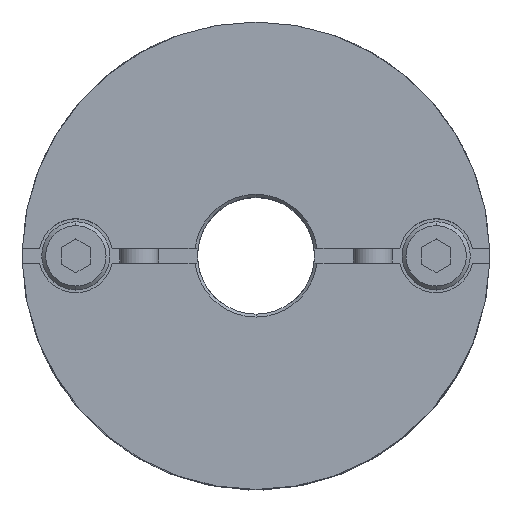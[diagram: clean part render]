
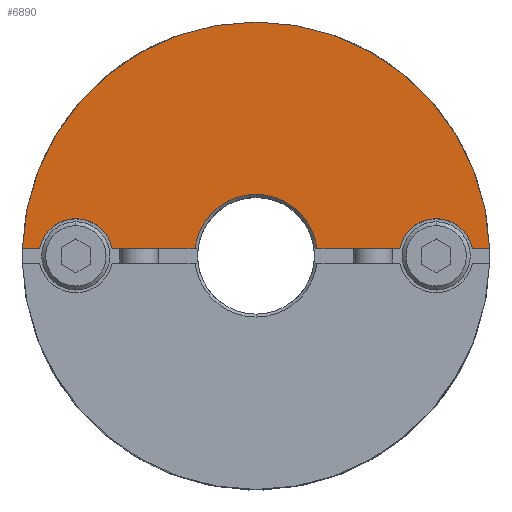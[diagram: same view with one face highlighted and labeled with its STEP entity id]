
A CAD part, top view. The second image highlights one B-rep face of the part: STEP entity #6890.
In plain terms, the highlighted planar face has unit normal (0, 0, 1).
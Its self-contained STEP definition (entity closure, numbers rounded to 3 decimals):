
#553=CARTESIAN_POINT('',(0.,6.3,19.3));
#554=VERTEX_POINT('',#553);
#563=CARTESIAN_POINT('',(-6.255,0.75,19.3));
#564=VERTEX_POINT('',#563);
#565=CARTESIAN_POINT('',(0.,0.,19.3));
#566=DIRECTION('',(0.0,0.0,1.0));
#567=DIRECTION('',(0.0,-1.0,0.0));
#568=AXIS2_PLACEMENT_3D('',#565,#566,#567);
#569=CIRCLE('',#568,6.3);
#570=EDGE_CURVE('',#554,#564,#569,.T.);
#742=CARTESIAN_POINT('',(0.,24.,19.3));
#743=VERTEX_POINT('',#742);
#827=CARTESIAN_POINT('',(-23.988,0.75,19.3));
#828=VERTEX_POINT('',#827);
#835=CARTESIAN_POINT('',(0.,0.,19.3));
#836=DIRECTION('',(0.0,0.0,-1.0));
#837=DIRECTION('',(0.0,1.0,0.0));
#838=AXIS2_PLACEMENT_3D('',#835,#836,#837);
#839=CIRCLE('',#838,24.0);
#840=EDGE_CURVE('',#828,#743,#839,.T.);
#1041=CARTESIAN_POINT('',(-18.5,3.8,19.3));
#1042=VERTEX_POINT('',#1041);
#1051=CARTESIAN_POINT('',(-22.225,0.75,19.3));
#1052=VERTEX_POINT('',#1051);
#1053=CARTESIAN_POINT('',(-18.5,0.,19.3));
#1054=DIRECTION('',(0.0,0.0,-1.0));
#1055=DIRECTION('',(0.0,1.0,0.0));
#1056=AXIS2_PLACEMENT_3D('',#1053,#1054,#1055);
#1057=CIRCLE('',#1056,3.8);
#1058=EDGE_CURVE('',#1052,#1042,#1057,.T.);
#1125=CARTESIAN_POINT('',(18.5,3.8,19.3));
#1126=VERTEX_POINT('',#1125);
#1135=CARTESIAN_POINT('',(14.775,0.75,19.3));
#1136=VERTEX_POINT('',#1135);
#1137=CARTESIAN_POINT('',(18.5,0.,19.3));
#1138=DIRECTION('',(0.0,0.0,-1.0));
#1139=DIRECTION('',(0.0,1.0,0.0));
#1140=AXIS2_PLACEMENT_3D('',#1137,#1138,#1139);
#1141=CIRCLE('',#1140,3.8);
#1142=EDGE_CURVE('',#1136,#1126,#1141,.T.);
#6566=CARTESIAN_POINT('',(22.225,0.75,19.3));
#6567=VERTEX_POINT('',#6566);
#6574=CARTESIAN_POINT('',(18.5,0.,19.3));
#6575=DIRECTION('',(0.0,0.0,-1.0));
#6576=DIRECTION('',(0.0,1.0,0.0));
#6577=AXIS2_PLACEMENT_3D('',#6574,#6575,#6576);
#6578=CIRCLE('',#6577,3.8);
#6579=EDGE_CURVE('',#1126,#6567,#6578,.T.);
#6632=CARTESIAN_POINT('',(-14.775,0.75,19.3));
#6633=VERTEX_POINT('',#6632);
#6640=CARTESIAN_POINT('',(-18.5,0.,19.3));
#6641=DIRECTION('',(0.0,0.0,-1.0));
#6642=DIRECTION('',(0.0,1.0,0.0));
#6643=AXIS2_PLACEMENT_3D('',#6640,#6641,#6642);
#6644=CIRCLE('',#6643,3.8);
#6645=EDGE_CURVE('',#1042,#6633,#6644,.T.);
#6664=CARTESIAN_POINT('',(23.988,0.75,19.3));
#6665=VERTEX_POINT('',#6664);
#6672=CARTESIAN_POINT('',(22.225,0.75,19.3));
#6673=DIRECTION('',(1.0,0.0,0.0));
#6674=VECTOR('',#6673,1.763);
#6675=LINE('',#6672,#6674);
#6676=EDGE_CURVE('',#6567,#6665,#6675,.T.);
#6687=CARTESIAN_POINT('',(6.255,0.75,19.3));
#6688=VERTEX_POINT('',#6687);
#6689=CARTESIAN_POINT('',(6.255,0.75,19.3));
#6690=DIRECTION('',(1.0,0.0,0.0));
#6691=VECTOR('',#6690,8.52);
#6692=LINE('',#6689,#6691);
#6693=EDGE_CURVE('',#6688,#1136,#6692,.T.);
#6849=CARTESIAN_POINT('',(0.,2.182,19.3));
#6850=DIRECTION('',(0.0,0.0,1.0));
#6851=DIRECTION('',(0.0,1.0,0.0));
#6852=AXIS2_PLACEMENT_3D('',#6849,#6850,#6851);
#6853=PLANE('',#6852);
#6854=ORIENTED_EDGE('',*,*,#1142,.T.);
#6855=ORIENTED_EDGE('',*,*,#6579,.T.);
#6856=ORIENTED_EDGE('',*,*,#6676,.T.);
#6857=CARTESIAN_POINT('',(0.,0.,19.3));
#6858=DIRECTION('',(0.0,0.0,-1.0));
#6859=DIRECTION('',(0.0,1.0,0.0));
#6860=AXIS2_PLACEMENT_3D('',#6857,#6858,#6859);
#6861=CIRCLE('',#6860,24.0);
#6862=EDGE_CURVE('',#743,#6665,#6861,.T.);
#6863=ORIENTED_EDGE('',*,*,#6862,.F.);
#6864=ORIENTED_EDGE('',*,*,#840,.F.);
#6865=CARTESIAN_POINT('',(-23.988,0.75,19.3));
#6866=DIRECTION('',(1.0,0.0,0.0));
#6867=VECTOR('',#6866,1.763);
#6868=LINE('',#6865,#6867);
#6869=EDGE_CURVE('',#828,#1052,#6868,.T.);
#6870=ORIENTED_EDGE('',*,*,#6869,.T.);
#6871=ORIENTED_EDGE('',*,*,#1058,.T.);
#6872=ORIENTED_EDGE('',*,*,#6645,.T.);
#6873=CARTESIAN_POINT('',(-14.775,0.75,19.3));
#6874=DIRECTION('',(1.0,0.0,0.0));
#6875=VECTOR('',#6874,8.52);
#6876=LINE('',#6873,#6875);
#6877=EDGE_CURVE('',#6633,#564,#6876,.T.);
#6878=ORIENTED_EDGE('',*,*,#6877,.T.);
#6879=ORIENTED_EDGE('',*,*,#570,.F.);
#6880=CARTESIAN_POINT('',(0.,0.,19.3));
#6881=DIRECTION('',(0.0,0.0,1.0));
#6882=DIRECTION('',(0.0,-1.0,0.0));
#6883=AXIS2_PLACEMENT_3D('',#6880,#6881,#6882);
#6884=CIRCLE('',#6883,6.3);
#6885=EDGE_CURVE('',#6688,#554,#6884,.T.);
#6886=ORIENTED_EDGE('',*,*,#6885,.F.);
#6887=ORIENTED_EDGE('',*,*,#6693,.T.);
#6888=EDGE_LOOP('',(#6854,#6855,#6856,#6863,#6864,#6870,#6871,#6872,#6878,#6879,#6886,#6887));
#6889=FACE_OUTER_BOUND('',#6888,.T.);
#6890=ADVANCED_FACE('',(#6889),#6853,.T.);
